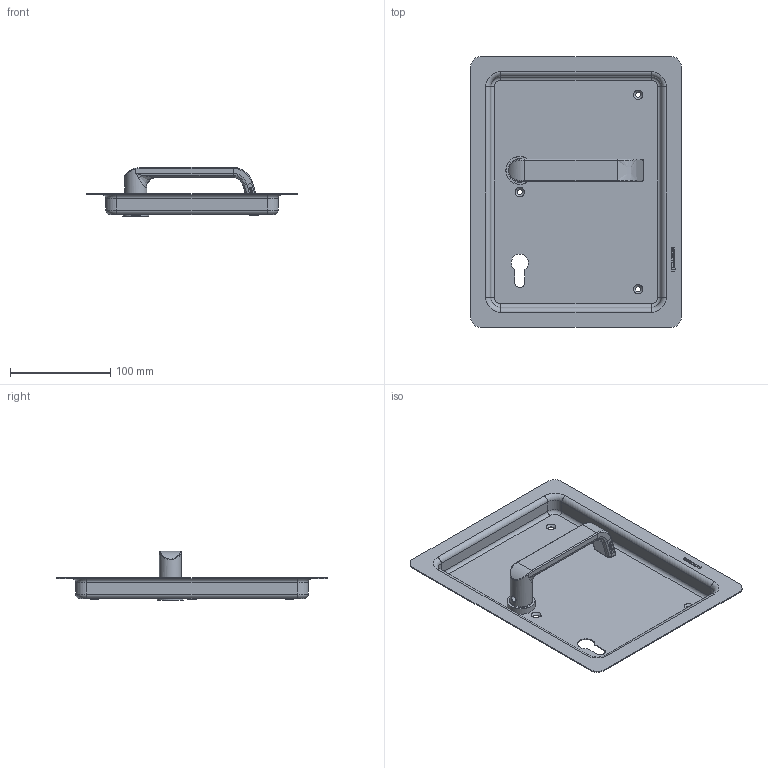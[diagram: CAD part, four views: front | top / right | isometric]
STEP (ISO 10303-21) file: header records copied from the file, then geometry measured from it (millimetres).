
FILE_DESCRIPTION(/* description */ (''),/* implementation_level */ '2;1');
FILE_NAME(/* name */ 'C:\ADSK_DMS_WS\Designs\Vorschläge\Loc Schalen\Muschel Serie 6\S6.20.D2\Heusser-Muschel S6.20.D2.392R.stp',/* time_stamp */ '2020-10-15T08:14:36+02:00',/* author */ ('gm'),/* organization */ (''),/* preprocessor_version */ 'ST-DEVELOPER v16.5',/* originating_system */ 'Autodesk Inventor 2017',/* authorisation */ '');
FILE_SCHEMA (('AUTOMOTIVE_DESIGN { 1 0 10303 214 3 1 1 }'));
Length unit declared in the file: millimetre
Products named in the file (1): S6.20.D2
Bounding box: 210 x 270 x 49 mm (x, y, z)
Volume: 112876.6 mm3; surface area: 153549.5 mm2
Topology: 1 solids, 2 shells, 611 faces, 1606 edges, 1040 vertices
Faces by surface type: plane 296, bspline 208, cylinder 70, torus 21, cone 16
Full cylindrical faces by diameter (mm): 1.7 x2, 6 x1, 14.2 x1, 16 x3, 18 x1, 19 x1, 19.1 x1, 22 x1, 23 x1, 23.2 x1, 24 x1, 25 x1, 26 x1, 28 x1
Entity records: 20905 total; most frequent: CARTESIAN_POINT 6371, ORIENTED_EDGE 3122, DIRECTION 2333, EDGE_CURVE 1561, VERTEX_POINT 1032, LINE 961, VECTOR 961, EDGE_LOOP 709
